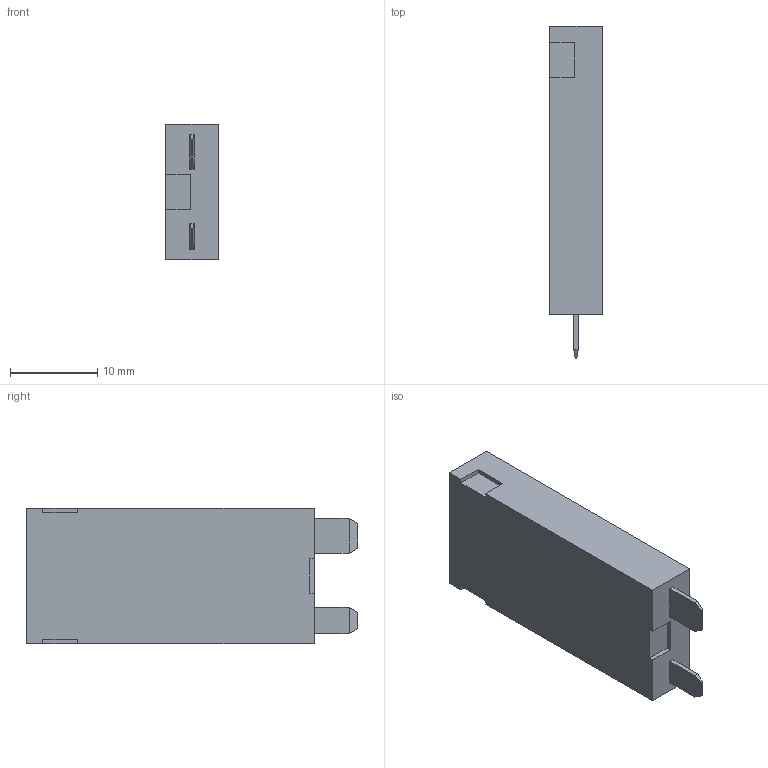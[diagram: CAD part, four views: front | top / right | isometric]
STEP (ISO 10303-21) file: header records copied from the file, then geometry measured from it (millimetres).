
FILE_DESCRIPTION(('STEP AP214'),'2;1');
FILE_NAME('99.01 senza led-catalogo.stp','2010-11-30T11:28:16',(''),(''),'2007.1.106','THINKDESIGN','');
FILE_SCHEMA(('AUTOMOTIVE_DESIGN'));
Length unit declared in the file: millimetre
Products named in the file (1): None
Bounding box: 6 x 38 x 15.5 mm (x, y, z)
Surface area: 1688.3 mm2 (no closed solid volume)
Topology: 0 solids, 0 shells, 36 faces, 176 edges, 176 vertices
Faces by surface type: plane 36
Entity records: 1827 total; most frequent: CARTESIAN_POINT 388, DIRECTION 248, VECTOR 176, LINE 176, TRIMMED_CURVE 176, COMPOSITE_CURVE_SEGMENT 176, AXIS2_PLACEMENT_3D 36, PLANE 36
